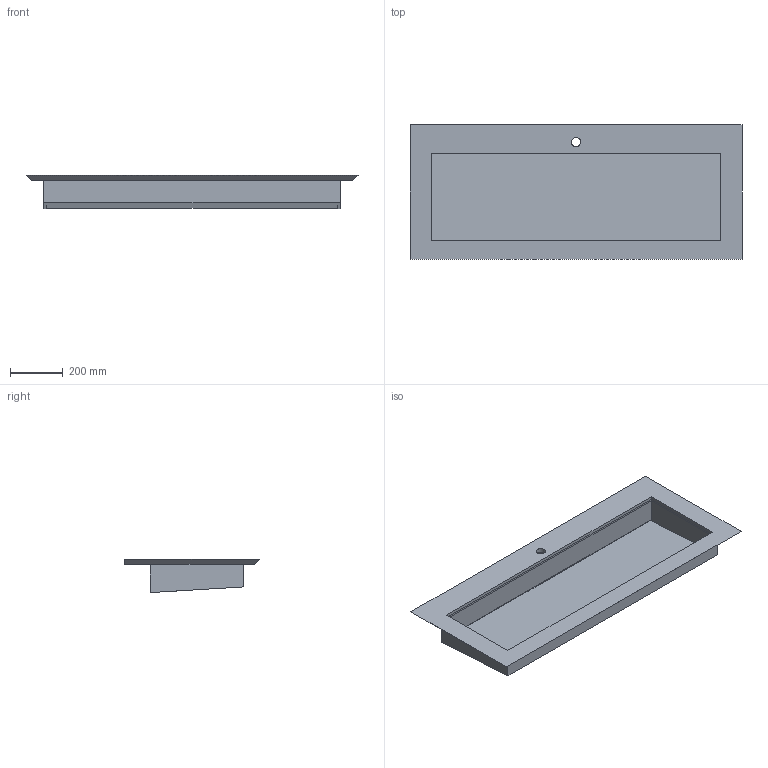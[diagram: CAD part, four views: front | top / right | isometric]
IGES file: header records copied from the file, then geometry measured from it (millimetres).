
Start section: Data from Parasolid IGES Translator 19.0.9, Copyright(c) 2006 Siemens PL M Software. All Rights Reserved.
Global section: file name: noorth-top-H 1,9 D 51,3 W 126_4650.igs; native system: By Siemens PLM Incorporated; preprocessor: XPlus GENERIC/IGES 19.0.9; author: Noname; organization: Noname; date: 20200603.113642; units: metre
Bounding box: 1260 x 512 x 125.71 mm (x, y, z)
Volume: 13185420 mm3; surface area: 2005904.9 mm2
Topology: 2 solids, 2 shells, 30 faces, 81 edges, 54 vertices
Faces by surface type: plane 29, cylinder 1
Full cylindrical faces by diameter (mm): 34.9 x1
